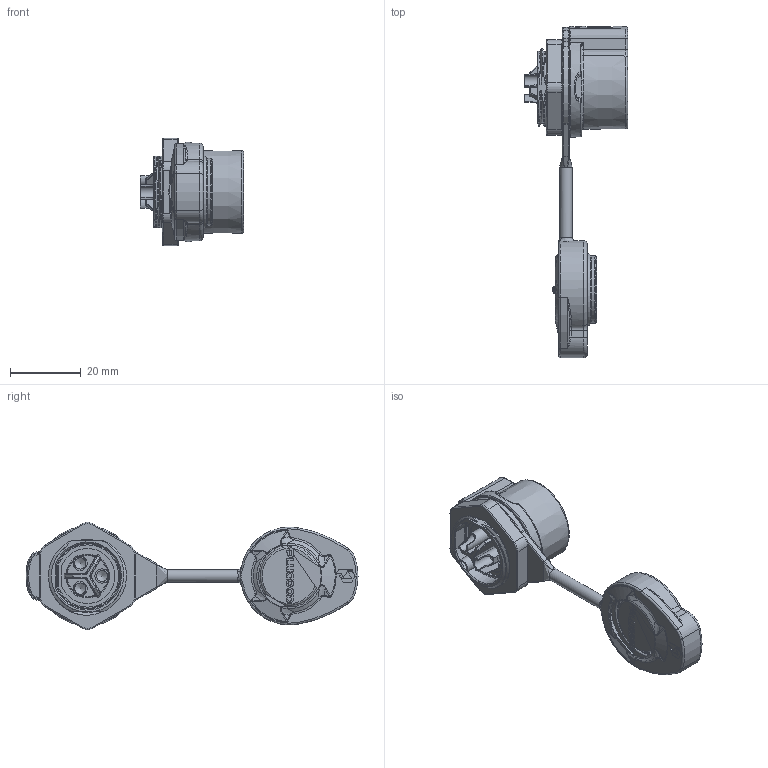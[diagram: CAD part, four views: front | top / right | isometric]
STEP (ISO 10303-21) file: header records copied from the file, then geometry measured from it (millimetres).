
FILE_DESCRIPTION (( 'STEP AP203' ), '1' );
FILE_NAME ('PLG20 3郋3.0等謂脣釱毀蚾.STEP', '2025-04-14T03:50:47', ( '' ), ( '' ), 'SwSTEP 2.0', 'SolidWorks 2024', '' );
FILE_SCHEMA (( 'CONFIG_CONTROL_DESIGN' ));
Length unit declared in the file: millimetre
Products named in the file (1): PLG20 3芯3.0单孔插座反装
Bounding box: 29.1 x 93.63 x 30.25 mm (x, y, z)
Surface area: 12964.3 mm2 (no closed solid volume)
Topology: 0 solids, 11 shells, 939 faces, 2383 edges, 1462 vertices
Faces by surface type: bspline 238, plane 224, cylinder 212, torus 176, cone 69, sphere 20
Full cylindrical faces by diameter (mm): 1.061 x1, 2.088 x1, 3.1 x3, 3.2 x3, 3.5 x1, 4 x2, 16.2 x1, 16.5 x1, 19.1 x4, 20.6 x1, 22.6 x1, 24.2 x1
Entity records: 50909 total; most frequent: CARTESIAN_POINT 30815, ORIENTED_EDGE 4452, DIRECTION 3691, EDGE_CURVE 2296, AXIS2_PLACEMENT_3D 1511, VERTEX_POINT 1435, EDGE_LOOP 1032, FACE_OUTER_BOUND 974
